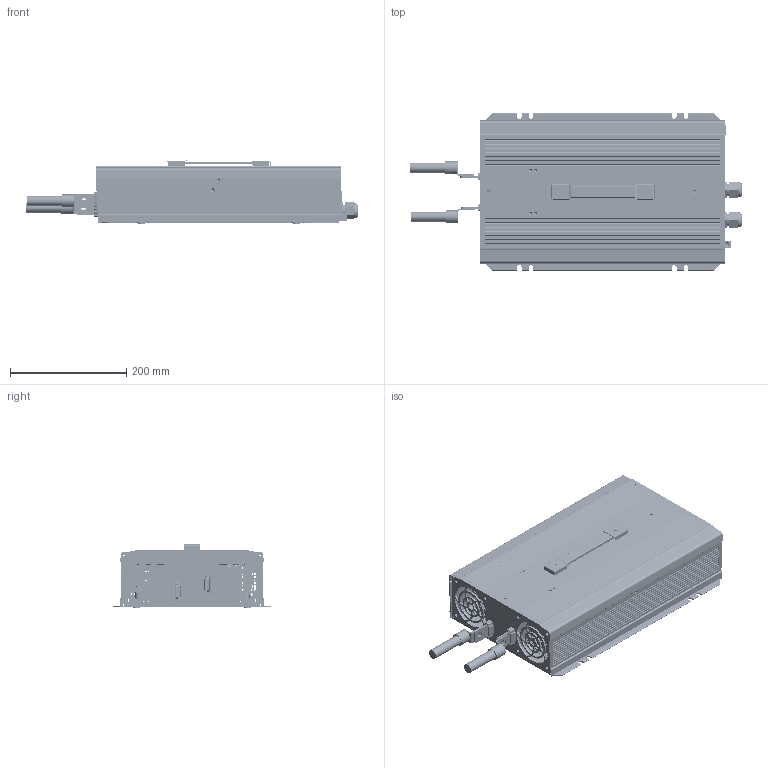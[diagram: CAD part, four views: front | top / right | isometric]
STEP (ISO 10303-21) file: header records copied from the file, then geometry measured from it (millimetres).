
FILE_DESCRIPTION(('Creo Elements/Direct Modeling STEP Export'),'2;1');
FILE_NAME('NTS-3200-AU.stp','2022-03-28T19:37:58',(''),(''),'PTC Creo Elements/Direct Modeling STEP processor for AP214 (Solid Model)','PTC Creo Elements/Direct Modeling 19.0E 27-Jun-2016 (C) Parametric Technology GmbH','');
FILE_SCHEMA(('AUTOMOTIVE_DESIGN { 1 0 10303 214 1 1 1 1 }'));
Length unit declared in the file: millimetre
Products named in the file (225): 零件9; 零件8; 零件7; 零件6; 零件5; 零件4; 零件3; 零件2; 零件12; 零件11; 零件10; 零件1; 电容; 欧插片; open_shell.1; guwei1.1; guwei1; ____-____1_2_.PRT; ____-____1_1_.PRT; ____-____15.PRT; ____-____11_2_.PRT; ____-____10_2_.PRT; ___U-_Y_T4.PRT; _S_4_X2_0192_X0__S__S_6_S___S_U; _S_4_X2_0192_X0__S_; _M4-0_5_-_____1_.PRT; _E05-001XX_-_____-___X1_.PRT; TO220.21; TO220.9; TO220.8; TO220.7; TO220.6; TO220.5; TO220.4; TO220.3; TO220.20; TO220.2; TO220.19; TO220.18; TO220.17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
Assembly tree (127 placements, depth 2):
  零件9
  零件8
  零件7
  零件6
  零件5
    零件5
Bounding box: 570.16 x 270 x 108.65 mm (x, y, z)
Volume: 2352873.3 mm3; surface area: 2018887.1 mm2
Topology: 147 solids, 150 shells, 7289 faces, 19824 edges, 13110 vertices
Faces by surface type: plane 4421, cylinder 2448, cone 248, torus 136, bspline 31, sphere 4, extrusion 1
Entity records: 185814 total; most frequent: CARTESIAN_POINT 40114, ORIENTED_EDGE 29297, DIRECTION 26633, EDGE_CURVE 14651, VECTOR 10399, LINE 10398, VERTEX_POINT 9663, AXIS2_PLACEMENT_3D 8117
